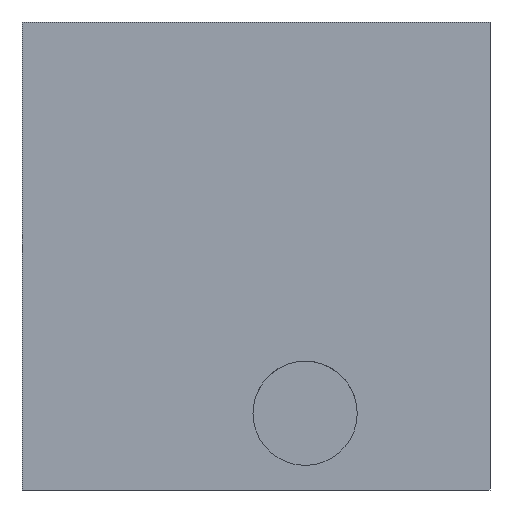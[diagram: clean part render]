
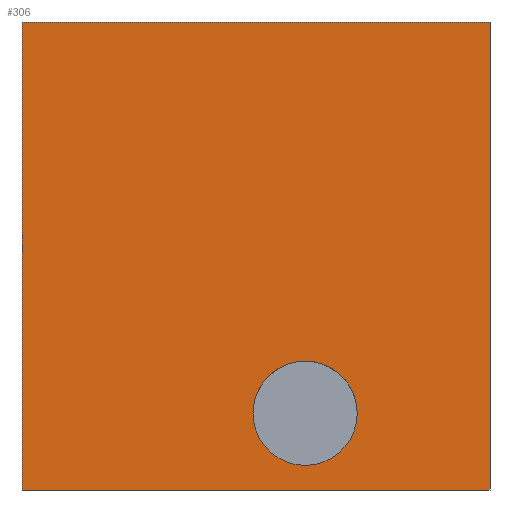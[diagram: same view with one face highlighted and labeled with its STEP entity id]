
A CAD part, left-side view. The second image highlights one B-rep face of the part: STEP entity #306.
In plain terms, the highlighted planar face has unit normal (-1, 0, 0).
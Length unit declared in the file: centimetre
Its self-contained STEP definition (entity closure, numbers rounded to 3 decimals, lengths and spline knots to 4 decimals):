
#56 = CARTESIAN_POINT ( 'NONE',  ( 0., 395.0757, 163.9712 ) ) ;
#92 = DIRECTION ( 'NONE',  ( 0., -1., 0. ) ) ;
#95 = VERTEX_POINT ( 'NONE', #872 ) ;
#103 = ORIENTED_EDGE ( 'NONE', *, *, #590, .F. ) ;
#106 = CARTESIAN_POINT ( 'NONE',  ( 0., 395.0757, 163.9712 ) ) ;
#133 = DIRECTION ( 'NONE',  ( 0., 0., 1. ) ) ;
#148 = CARTESIAN_POINT ( 'NONE',  ( 0., 1000., 1000. ) ) ;
#153 = VECTOR ( 'NONE', #92, 100. ) ;
#198 = CARTESIAN_POINT ( 'NONE',  ( 0., 1000., 1000. ) ) ;
#221 = CARTESIAN_POINT ( 'NONE',  ( 0., 0., 1000. ) ) ;
#254 = FACE_OUTER_BOUND ( 'NONE', #831, .T. ) ;
#270 = VECTOR ( 'NONE', #389, 100. ) ;
#272 = VERTEX_POINT ( 'NONE', #221 ) ;
#291 = VECTOR ( 'NONE', #775, 100. ) ;
#306 = ADVANCED_FACE ( 'NONE', ( #1184, #254 ), #905, .F. ) ;
#318 = CARTESIAN_POINT ( 'NONE',  ( 0., 1000., 0. ) ) ;
#333 = DIRECTION ( 'NONE',  ( -1., 0., 0. ) ) ;
#358 = CIRCLE ( 'NONE', #482, 111.4052 ) ;
#368 = AXIS2_PLACEMENT_3D ( 'NONE', #106, #490, #481 ) ;
#378 = CARTESIAN_POINT ( 'NONE',  ( 0., 1000., 1000. ) ) ;
#389 = DIRECTION ( 'NONE',  ( 0., 0., -1. ) ) ;
#415 = EDGE_LOOP ( 'NONE', ( #582, #103 ) ) ;
#439 = DIRECTION ( 'NONE',  ( 0., -1., 0. ) ) ;
#443 = DIRECTION ( 'NONE',  ( 0., 0., -1. ) ) ;
#481 = DIRECTION ( 'NONE',  ( 0., 0., 1. ) ) ;
#482 = AXIS2_PLACEMENT_3D ( 'NONE', #56, #333, #133 ) ;
#486 = CARTESIAN_POINT ( 'NONE',  ( 0., 0., 0. ) ) ;
#490 = DIRECTION ( 'NONE',  ( -1., 0., 0. ) ) ;
#524 = CARTESIAN_POINT ( 'NONE',  ( 0., 1000., 1000. ) ) ;
#538 = ORIENTED_EDGE ( 'NONE', *, *, #845, .T. ) ;
#559 = CARTESIAN_POINT ( 'NONE',  ( 0., 1000., 0. ) ) ;
#568 = LINE ( 'NONE', #198, #270 ) ;
#582 = ORIENTED_EDGE ( 'NONE', *, *, #1081, .F. ) ;
#590 = EDGE_CURVE ( 'NONE', #95, #880, #1043, .T. ) ;
#604 = VERTEX_POINT ( 'NONE', #378 ) ;
#687 = LINE ( 'NONE', #1153, #291 ) ;
#725 = AXIS2_PLACEMENT_3D ( 'NONE', #148, #805, #443 ) ;
#775 = DIRECTION ( 'NONE',  ( 0., 0., -1. ) ) ;
#805 = DIRECTION ( 'NONE',  ( 1., 0., 0. ) ) ;
#812 = VERTEX_POINT ( 'NONE', #486 ) ;
#831 = EDGE_LOOP ( 'NONE', ( #967, #904, #1146, #538 ) ) ;
#845 = EDGE_CURVE ( 'NONE', #604, #1060, #568, .T. ) ;
#868 = EDGE_CURVE ( 'NONE', #272, #812, #687, .T. ) ;
#872 = CARTESIAN_POINT ( 'NONE',  ( 0., 395.0757, 52.566 ) ) ;
#880 = VERTEX_POINT ( 'NONE', #955 ) ;
#904 = ORIENTED_EDGE ( 'NONE', *, *, #868, .F. ) ;
#905 = PLANE ( 'NONE',  #725 ) ;
#913 = VECTOR ( 'NONE', #439, 100. ) ;
#955 = CARTESIAN_POINT ( 'NONE',  ( 0., 395.0757, 275.3763 ) ) ;
#967 = ORIENTED_EDGE ( 'NONE', *, *, #1156, .T. ) ;
#1004 = LINE ( 'NONE', #524, #913 ) ;
#1033 = LINE ( 'NONE', #559, #153 ) ;
#1043 = CIRCLE ( 'NONE', #368, 111.4052 ) ;
#1060 = VERTEX_POINT ( 'NONE', #318 ) ;
#1081 = EDGE_CURVE ( 'NONE', #880, #95, #358, .T. ) ;
#1146 = ORIENTED_EDGE ( 'NONE', *, *, #1192, .F. ) ;
#1153 = CARTESIAN_POINT ( 'NONE',  ( 0., 0., 1000. ) ) ;
#1156 = EDGE_CURVE ( 'NONE', #1060, #812, #1033, .T. ) ;
#1184 = FACE_BOUND ( 'NONE', #415, .T. ) ;
#1192 = EDGE_CURVE ( 'NONE', #604, #272, #1004, .T. ) ;
